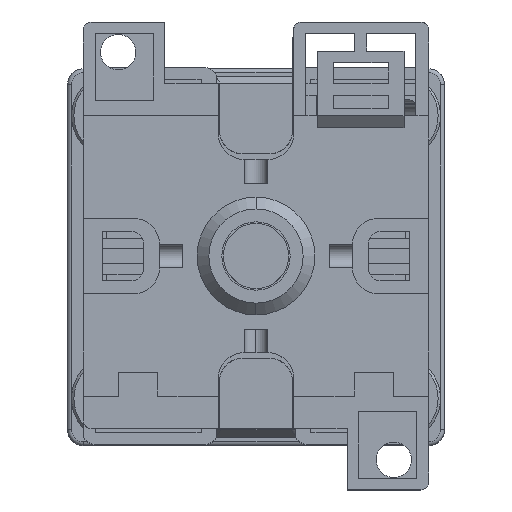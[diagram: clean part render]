
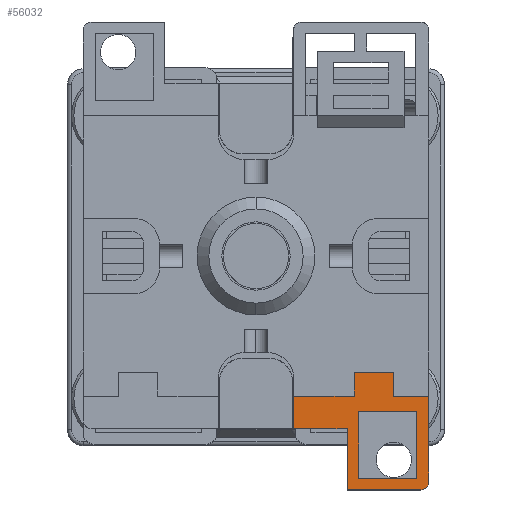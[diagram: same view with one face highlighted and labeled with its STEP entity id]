
A CAD part, top view. The second image highlights one B-rep face of the part: STEP entity #56032.
In plain terms, the highlighted planar face has unit normal (0, 0, 1).
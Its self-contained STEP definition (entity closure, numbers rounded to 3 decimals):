
#1820 = DIRECTION ( 'NONE',  ( 1., 0., 0. ) ) ;
#3533 = VECTOR ( 'NONE', #32629, 1000. ) ;
#5787 = EDGE_CURVE ( 'NONE', #188386, #188749, #99957, .T. ) ;
#6394 = VECTOR ( 'NONE', #144991, 1000. ) ;
#7714 = CARTESIAN_POINT ( 'NONE',  ( 28.361, -34.911, -144.082 ) ) ;
#7949 = CARTESIAN_POINT ( 'NONE',  ( -51.715, -22.961, -144.082 ) ) ;
#9157 = DIRECTION ( 'NONE',  ( 0., -1., 0. ) ) ;
#12867 = CARTESIAN_POINT ( 'NONE',  ( 28.361, -34.911, -144.082 ) ) ;
#13710 = VERTEX_POINT ( 'NONE', #200920 ) ;
#14645 = EDGE_LOOP ( 'NONE', ( #176369, #63270, #61883, #107422, #142496, #70003, #87501, #200604, #213341, #206672, #144446 ) ) ;
#16548 = VECTOR ( 'NONE', #176567, 1000. ) ;
#17987 = EDGE_CURVE ( 'NONE', #195826, #51662, #171359, .T. ) ;
#20385 = VECTOR ( 'NONE', #198248, 1000. ) ;
#22098 = DIRECTION ( 'NONE',  ( 0., 1., 0. ) ) ;
#24532 = CARTESIAN_POINT ( 'NONE',  ( 26.861, -24.961, -144.082 ) ) ;
#26104 = VECTOR ( 'NONE', #123842, 1000. ) ;
#26549 = VECTOR ( 'NONE', #205994, 1000. ) ;
#30878 = VECTOR ( 'NONE', #182419, 1000. ) ;
#32629 = DIRECTION ( 'NONE',  ( 1., 0., 0. ) ) ;
#33313 = VERTEX_POINT ( 'NONE', #80040 ) ;
#36184 = DIRECTION ( 'NONE',  ( 0., -1., 0. ) ) ;
#42631 = CARTESIAN_POINT ( 'NONE',  ( 23.861, -22.961, -144.082 ) ) ;
#45733 = LINE ( 'NONE', #94430, #16548 ) ;
#48294 = CARTESIAN_POINT ( 'NONE',  ( 19.461, -33.411, -144.082 ) ) ;
#49475 = LINE ( 'NONE', #48294, #30878 ) ;
#50060 = PLANE ( 'NONE',  #140008 ) ;
#51420 = LINE ( 'NONE', #134381, #3533 ) ;
#51662 = VERTEX_POINT ( 'NONE', #179663 ) ;
#52251 = DIRECTION ( 'NONE',  ( 0., 0., -1. ) ) ;
#52897 = EDGE_CURVE ( 'NONE', #219026, #13710, #200345, .T. ) ;
#53317 = CARTESIAN_POINT ( 'NONE',  ( 17.961, -27.111, -144.082 ) ) ;
#53655 = LINE ( 'NONE', #108791, #82855 ) ;
#56032 = ADVANCED_FACE ( 'NONE', ( #181695, #91675 ), #50060, .F. ) ;
#58245 = DIRECTION ( 'NONE',  ( 1., 0., 0. ) ) ;
#59645 = ORIENTED_EDGE ( 'NONE', *, *, #52897, .F. ) ;
#61439 = VERTEX_POINT ( 'NONE', #142118 ) ;
#61883 = ORIENTED_EDGE ( 'NONE', *, *, #209529, .F. ) ;
#63270 = ORIENTED_EDGE ( 'NONE', *, *, #17987, .T. ) ;
#63597 = VECTOR ( 'NONE', #159988, 1000. ) ;
#65288 = CARTESIAN_POINT ( 'NONE',  ( 27.361, -34.911, -144.082 ) ) ;
#70003 = ORIENTED_EDGE ( 'NONE', *, *, #131848, .F. ) ;
#71251 = VERTEX_POINT ( 'NONE', #153737 ) ;
#76533 = DIRECTION ( 'NONE',  ( -1., 0., 0. ) ) ;
#80040 = CARTESIAN_POINT ( 'NONE',  ( 18.861, -22.961, -144.082 ) ) ;
#82855 = VECTOR ( 'NONE', #58245, 1000. ) ;
#84067 = VECTOR ( 'NONE', #22098, 1000. ) ;
#84589 = LINE ( 'NONE', #122403, #26104 ) ;
#87501 = ORIENTED_EDGE ( 'NONE', *, *, #205364, .T. ) ;
#91045 = VECTOR ( 'NONE', #9157, 1000. ) ;
#91675 = FACE_OUTER_BOUND ( 'NONE', #14645, .T. ) ;
#94430 = CARTESIAN_POINT ( 'NONE',  ( 23.861, -19.961, -144.082 ) ) ;
#99957 = LINE ( 'NONE', #100927, #123793 ) ;
#100927 = CARTESIAN_POINT ( 'NONE',  ( 11.161, 24.689, -144.082 ) ) ;
#102064 = LINE ( 'NONE', #179682, #6394 ) ;
#106274 = AXIS2_PLACEMENT_3D ( 'NONE', #167849, #187003, #168571 ) ;
#107422 = ORIENTED_EDGE ( 'NONE', *, *, #143182, .F. ) ;
#108791 = CARTESIAN_POINT ( 'NONE',  ( -51.715, -22.961, -144.082 ) ) ;
#110096 = VECTOR ( 'NONE', #76533, 1000. ) ;
#110402 = CARTESIAN_POINT ( 'NONE',  ( 11.161, -27.111, -144.082 ) ) ;
#110806 = LINE ( 'NONE', #12867, #20385 ) ;
#111200 = CARTESIAN_POINT ( 'NONE',  ( 23.861, -19.961, -144.082 ) ) ;
#113038 = CARTESIAN_POINT ( 'NONE',  ( 19.461, -33.411, -144.082 ) ) ;
#117515 = CARTESIAN_POINT ( 'NONE',  ( 23.861, -19.961, -144.082 ) ) ;
#121165 = ORIENTED_EDGE ( 'NONE', *, *, #152388, .F. ) ;
#122048 = EDGE_CURVE ( 'NONE', #207647, #71251, #51420, .T. ) ;
#122403 = CARTESIAN_POINT ( 'NONE',  ( 18.861, -19.961, -144.082 ) ) ;
#123793 = VECTOR ( 'NONE', #36184, 1000. ) ;
#123842 = DIRECTION ( 'NONE',  ( 0., -1., 0. ) ) ;
#125527 = ORIENTED_EDGE ( 'NONE', *, *, #122048, .F. ) ;
#128133 = LINE ( 'NONE', #7949, #212858 ) ;
#129985 = EDGE_CURVE ( 'NONE', #195826, #198164, #110806, .T. ) ;
#131848 = EDGE_CURVE ( 'NONE', #61439, #181495, #45733, .T. ) ;
#132293 = EDGE_CURVE ( 'NONE', #188386, #33313, #53655, .T. ) ;
#134381 = CARTESIAN_POINT ( 'NONE',  ( 26.861, -33.411, -144.082 ) ) ;
#138335 = VERTEX_POINT ( 'NONE', #42631 ) ;
#140008 = AXIS2_PLACEMENT_3D ( 'NONE', #153854, #52251, #1820 ) ;
#142118 = CARTESIAN_POINT ( 'NONE',  ( 18.861, -19.961, -144.082 ) ) ;
#142496 = ORIENTED_EDGE ( 'NONE', *, *, #171998, .F. ) ;
#143182 = EDGE_CURVE ( 'NONE', #138335, #165202, #128133, .T. ) ;
#144446 = ORIENTED_EDGE ( 'NONE', *, *, #201987, .F. ) ;
#144991 = DIRECTION ( 'NONE',  ( -1., 0., 0. ) ) ;
#152388 = EDGE_CURVE ( 'NONE', #71251, #219026, #211548, .T. ) ;
#153737 = CARTESIAN_POINT ( 'NONE',  ( 26.861, -33.411, -144.082 ) ) ;
#153854 = CARTESIAN_POINT ( 'NONE',  ( 6.361, -5.111, -144.082 ) ) ;
#157279 = ORIENTED_EDGE ( 'NONE', *, *, #207690, .F. ) ;
#159939 = DIRECTION ( 'NONE',  ( 1., 0., 0. ) ) ;
#159988 = DIRECTION ( 'NONE',  ( 0., -1., 0. ) ) ;
#165202 = VERTEX_POINT ( 'NONE', #212138 ) ;
#167849 = CARTESIAN_POINT ( 'NONE',  ( 27.361, -33.911, -144.082 ) ) ;
#168571 = DIRECTION ( 'NONE',  ( 1., 0., 0. ) ) ;
#171182 = CARTESIAN_POINT ( 'NONE',  ( 17.961, -34.911, -144.082 ) ) ;
#171359 = CIRCLE ( 'NONE', #106274, 1. ) ;
#171998 = EDGE_CURVE ( 'NONE', #181495, #138335, #188219, .T. ) ;
#176369 = ORIENTED_EDGE ( 'NONE', *, *, #129985, .F. ) ;
#176567 = DIRECTION ( 'NONE',  ( 1., 0., 0. ) ) ;
#178370 = VERTEX_POINT ( 'NONE', #213822 ) ;
#179663 = CARTESIAN_POINT ( 'NONE',  ( 28.361, -33.911, -144.082 ) ) ;
#179682 = CARTESIAN_POINT ( 'NONE',  ( -15.639, -27.111, -144.082 ) ) ;
#181495 = VERTEX_POINT ( 'NONE', #117515 ) ;
#181695 = FACE_BOUND ( 'NONE', #183697, .T. ) ;
#182419 = DIRECTION ( 'NONE',  ( 0., -1., 0. ) ) ;
#183697 = EDGE_LOOP ( 'NONE', ( #59645, #121165, #125527, #157279 ) ) ;
#186680 = CARTESIAN_POINT ( 'NONE',  ( 11.161, -22.961, -144.082 ) ) ;
#187003 = DIRECTION ( 'NONE',  ( 0., 0., 1. ) ) ;
#188219 = LINE ( 'NONE', #111200, #63597 ) ;
#188386 = VERTEX_POINT ( 'NONE', #186680 ) ;
#188749 = VERTEX_POINT ( 'NONE', #110402 ) ;
#195826 = VERTEX_POINT ( 'NONE', #65288 ) ;
#197582 = CARTESIAN_POINT ( 'NONE',  ( 26.861, -24.961, -144.082 ) ) ;
#198164 = VERTEX_POINT ( 'NONE', #171182 ) ;
#198248 = DIRECTION ( 'NONE',  ( -1., 0., 0. ) ) ;
#200345 = LINE ( 'NONE', #24532, #110096 ) ;
#200604 = ORIENTED_EDGE ( 'NONE', *, *, #132293, .F. ) ;
#200920 = CARTESIAN_POINT ( 'NONE',  ( 19.461, -24.961, -144.082 ) ) ;
#201162 = EDGE_CURVE ( 'NONE', #178370, #188749, #102064, .T. ) ;
#201734 = LINE ( 'NONE', #53317, #26549 ) ;
#201987 = EDGE_CURVE ( 'NONE', #198164, #178370, #201734, .T. ) ;
#202186 = LINE ( 'NONE', #7714, #91045 ) ;
#205364 = EDGE_CURVE ( 'NONE', #61439, #33313, #84589, .T. ) ;
#205994 = DIRECTION ( 'NONE',  ( 0., 1., 0. ) ) ;
#206672 = ORIENTED_EDGE ( 'NONE', *, *, #201162, .F. ) ;
#207647 = VERTEX_POINT ( 'NONE', #113038 ) ;
#207690 = EDGE_CURVE ( 'NONE', #13710, #207647, #49475, .T. ) ;
#209529 = EDGE_CURVE ( 'NONE', #165202, #51662, #202186, .T. ) ;
#209644 = CARTESIAN_POINT ( 'NONE',  ( 26.861, -33.411, -144.082 ) ) ;
#211548 = LINE ( 'NONE', #209644, #84067 ) ;
#212138 = CARTESIAN_POINT ( 'NONE',  ( 28.361, -22.961, -144.082 ) ) ;
#212858 = VECTOR ( 'NONE', #159939, 1000. ) ;
#213341 = ORIENTED_EDGE ( 'NONE', *, *, #5787, .T. ) ;
#213822 = CARTESIAN_POINT ( 'NONE',  ( 17.961, -27.111, -144.082 ) ) ;
#219026 = VERTEX_POINT ( 'NONE', #197582 ) ;
